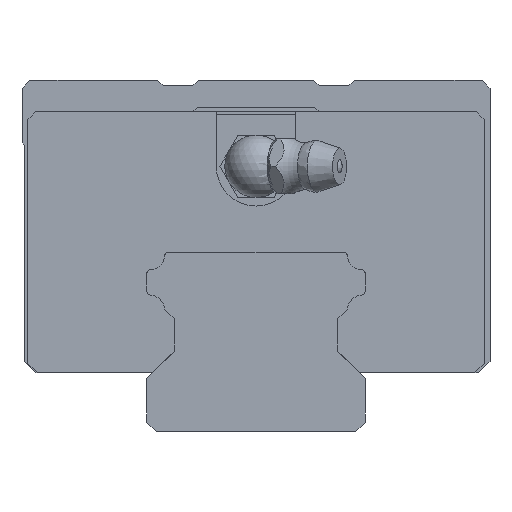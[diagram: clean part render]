
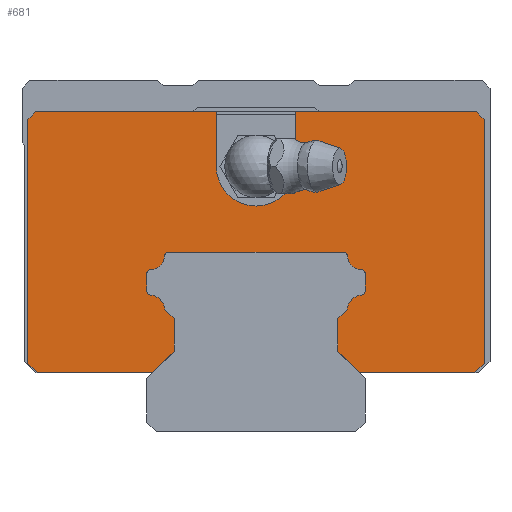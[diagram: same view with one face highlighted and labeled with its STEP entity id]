
A CAD part, front view. The second image highlights one B-rep face of the part: STEP entity #681.
In plain terms, the highlighted planar face has unit normal (0, -1, 0).
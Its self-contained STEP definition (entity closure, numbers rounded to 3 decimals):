
#547=CIRCLE('',#3559,5.1);
#548=CIRCLE('',#3560,2.);
#549=CIRCLE('',#3561,0.5);
#550=CIRCLE('',#3562,0.5);
#551=CIRCLE('',#3563,2.);
#552=CIRCLE('',#3564,0.5);
#553=CIRCLE('',#3565,0.5);
#554=CIRCLE('',#3566,2.);
#555=CIRCLE('',#3567,0.5);
#556=CIRCLE('',#3568,0.5);
#557=CIRCLE('',#3569,2.);
#681=ADVANCED_FACE('',(#979),#856,.F.);
#856=PLANE('',#3570);
#979=FACE_OUTER_BOUND('',#1116,.T.);
#1116=EDGE_LOOP('',(#1479,#1480,#1481,#1482,#1483,#1484,#1485,#1486,#1487,
#1488,#1489,#1490,#1491,#1492,#1493,#1494,#1495,#1496,#1497,#1498,#1499,
#1500,#1501,#1502,#1503,#1504,#1505,#1506,#1507,#1508,#1509,#1510));
#1479=ORIENTED_EDGE('',*,*,#2592,.F.);
#1480=ORIENTED_EDGE('',*,*,#2593,.T.);
#1481=ORIENTED_EDGE('',*,*,#2594,.T.);
#1482=ORIENTED_EDGE('',*,*,#2595,.T.);
#1483=ORIENTED_EDGE('',*,*,#2596,.T.);
#1484=ORIENTED_EDGE('',*,*,#2597,.T.);
#1485=ORIENTED_EDGE('',*,*,#2598,.F.);
#1486=ORIENTED_EDGE('',*,*,#2599,.F.);
#1487=ORIENTED_EDGE('',*,*,#2600,.F.);
#1488=ORIENTED_EDGE('',*,*,#2601,.T.);
#1489=ORIENTED_EDGE('',*,*,#2602,.T.);
#1490=ORIENTED_EDGE('',*,*,#2603,.T.);
#1491=ORIENTED_EDGE('',*,*,#2604,.T.);
#1492=ORIENTED_EDGE('',*,*,#2605,.T.);
#1493=ORIENTED_EDGE('',*,*,#2606,.F.);
#1494=ORIENTED_EDGE('',*,*,#2607,.F.);
#1495=ORIENTED_EDGE('',*,*,#2608,.F.);
#1496=ORIENTED_EDGE('',*,*,#2609,.F.);
#1497=ORIENTED_EDGE('',*,*,#2610,.F.);
#1498=ORIENTED_EDGE('',*,*,#2611,.F.);
#1499=ORIENTED_EDGE('',*,*,#2612,.F.);
#1500=ORIENTED_EDGE('',*,*,#2613,.F.);
#1501=ORIENTED_EDGE('',*,*,#2614,.F.);
#1502=ORIENTED_EDGE('',*,*,#2615,.F.);
#1503=ORIENTED_EDGE('',*,*,#2616,.F.);
#1504=ORIENTED_EDGE('',*,*,#2617,.F.);
#1505=ORIENTED_EDGE('',*,*,#2618,.F.);
#1506=ORIENTED_EDGE('',*,*,#2619,.F.);
#1507=ORIENTED_EDGE('',*,*,#2620,.F.);
#1508=ORIENTED_EDGE('',*,*,#2621,.F.);
#1509=ORIENTED_EDGE('',*,*,#2622,.F.);
#1510=ORIENTED_EDGE('',*,*,#2623,.F.);
#2251=VERTEX_POINT('',#5032);
#2252=VERTEX_POINT('',#5033);
#2253=VERTEX_POINT('',#5035);
#2254=VERTEX_POINT('',#5037);
#2255=VERTEX_POINT('',#5039);
#2256=VERTEX_POINT('',#5041);
#2257=VERTEX_POINT('',#5043);
#2258=VERTEX_POINT('',#5045);
#2259=VERTEX_POINT('',#5047);
#2260=VERTEX_POINT('',#5049);
#2261=VERTEX_POINT('',#5051);
#2262=VERTEX_POINT('',#5053);
#2263=VERTEX_POINT('',#5055);
#2264=VERTEX_POINT('',#5057);
#2265=VERTEX_POINT('',#5059);
#2266=VERTEX_POINT('',#5061);
#2267=VERTEX_POINT('',#5063);
#2268=VERTEX_POINT('',#5065);
#2269=VERTEX_POINT('',#5067);
#2270=VERTEX_POINT('',#5069);
#2271=VERTEX_POINT('',#5071);
#2272=VERTEX_POINT('',#5073);
#2273=VERTEX_POINT('',#5075);
#2274=VERTEX_POINT('',#5077);
#2275=VERTEX_POINT('',#5079);
#2276=VERTEX_POINT('',#5081);
#2277=VERTEX_POINT('',#5083);
#2278=VERTEX_POINT('',#5085);
#2279=VERTEX_POINT('',#5087);
#2280=VERTEX_POINT('',#5089);
#2281=VERTEX_POINT('',#5091);
#2282=VERTEX_POINT('',#5093);
#2592=EDGE_CURVE('',#2251,#2252,#2990,.T.);
#2593=EDGE_CURVE('',#2251,#2253,#2991,.T.);
#2594=EDGE_CURVE('',#2253,#2254,#2992,.T.);
#2595=EDGE_CURVE('',#2254,#2255,#2993,.T.);
#2596=EDGE_CURVE('',#2255,#2256,#2994,.T.);
#2597=EDGE_CURVE('',#2256,#2257,#2995,.T.);
#2598=EDGE_CURVE('',#2258,#2257,#2996,.T.);
#2599=EDGE_CURVE('',#2259,#2258,#547,.T.);
#2600=EDGE_CURVE('',#2260,#2259,#2997,.T.);
#2601=EDGE_CURVE('',#2260,#2261,#2998,.T.);
#2602=EDGE_CURVE('',#2261,#2262,#2999,.T.);
#2603=EDGE_CURVE('',#2262,#2263,#3000,.T.);
#2604=EDGE_CURVE('',#2263,#2264,#3001,.T.);
#2605=EDGE_CURVE('',#2264,#2265,#3002,.T.);
#2606=EDGE_CURVE('',#2266,#2265,#3003,.T.);
#2607=EDGE_CURVE('',#2267,#2266,#3004,.T.);
#2608=EDGE_CURVE('',#2268,#2267,#3005,.T.);
#2609=EDGE_CURVE('',#2269,#2268,#548,.T.);
#2610=EDGE_CURVE('',#2270,#2269,#549,.T.);
#2611=EDGE_CURVE('',#2271,#2270,#3006,.T.);
#2612=EDGE_CURVE('',#2272,#2271,#550,.T.);
#2613=EDGE_CURVE('',#2273,#2272,#551,.T.);
#2614=EDGE_CURVE('',#2274,#2273,#552,.T.);
#2615=EDGE_CURVE('',#2275,#2274,#3007,.T.);
#2616=EDGE_CURVE('',#2276,#2275,#553,.T.);
#2617=EDGE_CURVE('',#2277,#2276,#554,.T.);
#2618=EDGE_CURVE('',#2278,#2277,#555,.T.);
#2619=EDGE_CURVE('',#2279,#2278,#3008,.T.);
#2620=EDGE_CURVE('',#2280,#2279,#556,.T.);
#2621=EDGE_CURVE('',#2281,#2280,#557,.T.);
#2622=EDGE_CURVE('',#2282,#2281,#3009,.T.);
#2623=EDGE_CURVE('',#2252,#2282,#3010,.T.);
#2990=LINE('',#5031,#3268);
#2991=LINE('',#5034,#3269);
#2992=LINE('',#5036,#3270);
#2993=LINE('',#5038,#3271);
#2994=LINE('',#5040,#3272);
#2995=LINE('',#5042,#3273);
#2996=LINE('',#5044,#3274);
#2997=LINE('',#5048,#3275);
#2998=LINE('',#5050,#3276);
#2999=LINE('',#5052,#3277);
#3000=LINE('',#5054,#3278);
#3001=LINE('',#5056,#3279);
#3002=LINE('',#5058,#3280);
#3003=LINE('',#5060,#3281);
#3004=LINE('',#5062,#3282);
#3005=LINE('',#5064,#3283);
#3006=LINE('',#5070,#3284);
#3007=LINE('',#5078,#3285);
#3008=LINE('',#5086,#3286);
#3009=LINE('',#5092,#3287);
#3010=LINE('',#5094,#3288);
#3268=VECTOR('',#3958,1.);
#3269=VECTOR('',#3959,1.);
#3270=VECTOR('',#3960,1.);
#3271=VECTOR('',#3961,1.);
#3272=VECTOR('',#3962,1.);
#3273=VECTOR('',#3963,1.);
#3274=VECTOR('',#3964,1.);
#3275=VECTOR('',#3967,1.);
#3276=VECTOR('',#3968,1.);
#3277=VECTOR('',#3969,1.);
#3278=VECTOR('',#3970,1.);
#3279=VECTOR('',#3971,1.);
#3280=VECTOR('',#3972,1.);
#3281=VECTOR('',#3973,1.);
#3282=VECTOR('',#3974,1.);
#3283=VECTOR('',#3975,1.);
#3284=VECTOR('',#3980,1.);
#3285=VECTOR('',#3987,1.);
#3286=VECTOR('',#3994,1.);
#3287=VECTOR('',#3999,1.);
#3288=VECTOR('',#4000,1.);
#3559=AXIS2_PLACEMENT_3D('',#5046,#3965,#3966);
#3560=AXIS2_PLACEMENT_3D('',#5066,#3976,#3977);
#3561=AXIS2_PLACEMENT_3D('',#5068,#3978,#3979);
#3562=AXIS2_PLACEMENT_3D('',#5072,#3981,#3982);
#3563=AXIS2_PLACEMENT_3D('',#5074,#3983,#3984);
#3564=AXIS2_PLACEMENT_3D('',#5076,#3985,#3986);
#3565=AXIS2_PLACEMENT_3D('',#5080,#3988,#3989);
#3566=AXIS2_PLACEMENT_3D('',#5082,#3990,#3991);
#3567=AXIS2_PLACEMENT_3D('',#5084,#3992,#3993);
#3568=AXIS2_PLACEMENT_3D('',#5088,#3995,#3996);
#3569=AXIS2_PLACEMENT_3D('',#5090,#3997,#3998);
#3570=AXIS2_PLACEMENT_3D('',#5095,#4001,#4002);
#3958=DIRECTION('',(-0.707,0.,0.707));
#3959=DIRECTION('',(1.,0.,0.));
#3960=DIRECTION('',(0.707,0.,0.707));
#3961=DIRECTION('',(0.,0.,1.));
#3962=DIRECTION('',(-0.707,0.,0.707));
#3963=DIRECTION('',(-1.,0.,0.));
#3964=DIRECTION('',(0.,0.,1.));
#3965=DIRECTION('',(0.,-1.,0.));
#3966=DIRECTION('',(-1.,0.,0.));
#3967=DIRECTION('',(0.,0.,-1.));
#3968=DIRECTION('',(-1.,0.,0.));
#3969=DIRECTION('',(-0.707,0.,-0.707));
#3970=DIRECTION('',(0.,0.,-1.));
#3971=DIRECTION('',(0.707,0.,-0.707));
#3972=DIRECTION('',(1.,0.,0.));
#3973=DIRECTION('',(-0.707,0.,-0.707));
#3974=DIRECTION('',(0.,0.,-1.));
#3975=DIRECTION('',(0.707,0.,-0.707));
#3976=DIRECTION('',(0.,1.,0.));
#3977=DIRECTION('',(0.,0.,1.));
#3978=DIRECTION('',(0.,-1.,0.));
#3979=DIRECTION('',(0.,0.,1.));
#3980=DIRECTION('',(0.,0.,-1.));
#3981=DIRECTION('',(0.,-1.,0.));
#3982=DIRECTION('',(0.,0.,1.));
#3983=DIRECTION('',(0.,1.,0.));
#3984=DIRECTION('',(0.,0.,1.));
#3985=DIRECTION('',(0.,-1.,0.));
#3986=DIRECTION('',(0.,0.,1.));
#3987=DIRECTION('',(-1.,0.,0.));
#3988=DIRECTION('',(0.,-1.,0.));
#3989=DIRECTION('',(0.,0.,1.));
#3990=DIRECTION('',(0.,1.,0.));
#3991=DIRECTION('',(0.,0.,1.));
#3992=DIRECTION('',(0.,-1.,0.));
#3993=DIRECTION('',(0.,0.,1.));
#3994=DIRECTION('',(0.,0.,1.));
#3995=DIRECTION('',(0.,-1.,0.));
#3996=DIRECTION('',(0.,0.,1.));
#3997=DIRECTION('',(0.,1.,0.));
#3998=DIRECTION('',(0.,0.,1.));
#3999=DIRECTION('',(0.707,0.,0.707));
#4000=DIRECTION('',(0.,0.,1.));
#4001=DIRECTION('',(0.,1.,0.));
#4002=DIRECTION('',(0.,0.,1.));
#5031=CARTESIAN_POINT('',(20.675,-13.8,0.125));
#5032=CARTESIAN_POINT('',(13.3,-13.8,7.5));
#5033=CARTESIAN_POINT('',(10.5,-13.8,10.3));
#5034=CARTESIAN_POINT('',(-28.05,-13.8,7.5));
#5035=CARTESIAN_POINT('',(28.05,-13.8,7.5));
#5036=CARTESIAN_POINT('',(28.05,-13.8,7.5));
#5037=CARTESIAN_POINT('',(29.25,-13.8,8.7));
#5038=CARTESIAN_POINT('',(29.25,-13.8,8.7));
#5039=CARTESIAN_POINT('',(29.25,-13.8,40.));
#5040=CARTESIAN_POINT('',(29.25,-13.8,40.));
#5041=CARTESIAN_POINT('',(28.25,-13.8,41.));
#5042=CARTESIAN_POINT('',(28.25,-13.8,41.));
#5043=CARTESIAN_POINT('',(5.1,-13.8,41.));
#5044=CARTESIAN_POINT('',(5.1,-13.8,34.));
#5045=CARTESIAN_POINT('',(5.1,-13.8,34.));
#5046=CARTESIAN_POINT('',(0.,-13.8,34.));
#5047=CARTESIAN_POINT('',(-5.1,-13.8,34.));
#5048=CARTESIAN_POINT('',(-5.1,-13.8,41.));
#5049=CARTESIAN_POINT('',(-5.1,-13.8,41.));
#5050=CARTESIAN_POINT('',(28.25,-13.8,41.));
#5051=CARTESIAN_POINT('',(-28.25,-13.8,41.));
#5052=CARTESIAN_POINT('',(-28.25,-13.8,41.));
#5053=CARTESIAN_POINT('',(-29.25,-13.8,40.));
#5054=CARTESIAN_POINT('',(-29.25,-13.8,40.));
#5055=CARTESIAN_POINT('',(-29.25,-13.8,8.7));
#5056=CARTESIAN_POINT('',(-29.25,-13.8,8.7));
#5057=CARTESIAN_POINT('',(-28.05,-13.8,7.5));
#5058=CARTESIAN_POINT('',(-28.05,-13.8,7.5));
#5059=CARTESIAN_POINT('',(-13.3,-13.8,7.5));
#5060=CARTESIAN_POINT('',(24.225,-13.8,45.025));
#5061=CARTESIAN_POINT('',(-10.5,-13.8,10.3));
#5062=CARTESIAN_POINT('',(-10.5,-13.8,24.35));
#5063=CARTESIAN_POINT('',(-10.5,-13.8,14.502));
#5064=CARTESIAN_POINT('',(12.276,-13.8,-8.274));
#5065=CARTESIAN_POINT('',(-11.701,-13.8,15.703));
#5066=CARTESIAN_POINT('',(-13.691,-13.8,15.502));
#5067=CARTESIAN_POINT('',(-13.536,-13.8,17.496));
#5068=CARTESIAN_POINT('',(-13.5,-13.8,17.995));
#5069=CARTESIAN_POINT('',(-14.,-13.8,17.995));
#5070=CARTESIAN_POINT('',(-14.,-13.8,24.35));
#5071=CARTESIAN_POINT('',(-14.,-13.8,20.226));
#5072=CARTESIAN_POINT('',(-13.5,-13.8,20.226));
#5073=CARTESIAN_POINT('',(-13.536,-13.8,20.725));
#5074=CARTESIAN_POINT('',(-13.691,-13.8,22.719));
#5075=CARTESIAN_POINT('',(-11.699,-13.8,22.544));
#5076=CARTESIAN_POINT('',(-11.201,-13.8,22.5));
#5077=CARTESIAN_POINT('',(-11.201,-13.8,23.));
#5078=CARTESIAN_POINT('',(44.9,-13.8,23.));
#5079=CARTESIAN_POINT('',(11.201,-13.8,23.));
#5080=CARTESIAN_POINT('',(11.201,-13.8,22.5));
#5081=CARTESIAN_POINT('',(11.699,-13.8,22.544));
#5082=CARTESIAN_POINT('',(13.691,-13.8,22.719));
#5083=CARTESIAN_POINT('',(13.536,-13.8,20.725));
#5084=CARTESIAN_POINT('',(13.5,-13.8,20.226));
#5085=CARTESIAN_POINT('',(14.,-13.8,20.226));
#5086=CARTESIAN_POINT('',(14.,-13.8,24.35));
#5087=CARTESIAN_POINT('',(14.,-13.8,17.995));
#5088=CARTESIAN_POINT('',(13.5,-13.8,17.995));
#5089=CARTESIAN_POINT('',(13.536,-13.8,17.496));
#5090=CARTESIAN_POINT('',(13.691,-13.8,15.502));
#5091=CARTESIAN_POINT('',(11.701,-13.8,15.703));
#5092=CARTESIAN_POINT('',(32.624,-13.8,36.626));
#5093=CARTESIAN_POINT('',(10.5,-13.8,14.502));
#5094=CARTESIAN_POINT('',(10.5,-13.8,24.35));
#5095=CARTESIAN_POINT('',(44.9,-13.8,24.35));
